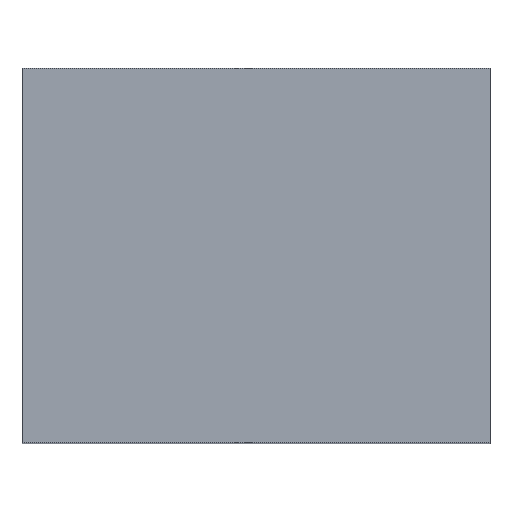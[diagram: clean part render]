
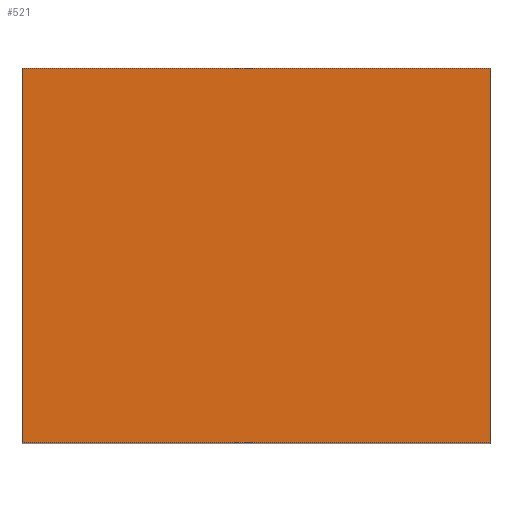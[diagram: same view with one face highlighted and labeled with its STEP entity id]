
A CAD part, top view. The second image highlights one B-rep face of the part: STEP entity #521.
In plain terms, the highlighted planar face has unit normal (0, 0, 1).
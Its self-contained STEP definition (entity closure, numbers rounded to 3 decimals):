
#7 = DIRECTION ( 'NONE',  ( 0., 0., -1. ) ) ;
#12 = CARTESIAN_POINT ( 'NONE',  ( 50., -20., 20. ) ) ;
#19 = AXIS2_PLACEMENT_3D ( 'NONE', #78, #7, #510 ) ;
#40 = LINE ( 'NONE', #592, #189 ) ;
#41 = EDGE_LOOP ( 'NONE', ( #373, #630, #357, #467 ) ) ;
#56 = EDGE_CURVE ( 'NONE', #415, #255, #40, .T. ) ;
#78 = CARTESIAN_POINT ( 'NONE',  ( 50., -20., 20. ) ) ;
#80 = VERTEX_POINT ( 'NONE', #418 ) ;
#96 = LINE ( 'NONE', #327, #655 ) ;
#165 = EDGE_CURVE ( 'NONE', #80, #415, #573, .T. ) ;
#171 = VERTEX_POINT ( 'NONE', #442 ) ;
#189 = VECTOR ( 'NONE', #427, 1000. ) ;
#230 = VECTOR ( 'NONE', #398, 1000. ) ;
#255 = VERTEX_POINT ( 'NONE', #511 ) ;
#287 = LINE ( 'NONE', #496, #561 ) ;
#300 = PLANE ( 'NONE',  #19 ) ;
#327 = CARTESIAN_POINT ( 'NONE',  ( 0., -20., 20. ) ) ;
#357 = ORIENTED_EDGE ( 'NONE', *, *, #165, .F. ) ;
#366 = EDGE_CURVE ( 'NONE', #171, #255, #96, .T. ) ;
#373 = ORIENTED_EDGE ( 'NONE', *, *, #366, .T. ) ;
#398 = DIRECTION ( 'NONE',  ( 0., -1., 0. ) ) ;
#410 = DIRECTION ( 'NONE',  ( 0., -1., 0. ) ) ;
#415 = VERTEX_POINT ( 'NONE', #492 ) ;
#418 = CARTESIAN_POINT ( 'NONE',  ( 50., 20., 20. ) ) ;
#427 = DIRECTION ( 'NONE',  ( -1., 0., 0. ) ) ;
#442 = CARTESIAN_POINT ( 'NONE',  ( 0., 20., 20. ) ) ;
#451 = FACE_OUTER_BOUND ( 'NONE', #41, .T. ) ;
#467 = ORIENTED_EDGE ( 'NONE', *, *, #504, .T. ) ;
#492 = CARTESIAN_POINT ( 'NONE',  ( 50., -20., 20. ) ) ;
#496 = CARTESIAN_POINT ( 'NONE',  ( 50., 20., 20. ) ) ;
#504 = EDGE_CURVE ( 'NONE', #80, #171, #287, .T. ) ;
#510 = DIRECTION ( 'NONE',  ( -1., 0., 0. ) ) ;
#511 = CARTESIAN_POINT ( 'NONE',  ( 0., -20., 20. ) ) ;
#521 = ADVANCED_FACE ( 'NONE', ( #451 ), #300, .F. ) ;
#561 = VECTOR ( 'NONE', #599, 1000. ) ;
#573 = LINE ( 'NONE', #12, #230 ) ;
#592 = CARTESIAN_POINT ( 'NONE',  ( 50., -20., 20. ) ) ;
#599 = DIRECTION ( 'NONE',  ( -1., 0., 0. ) ) ;
#630 = ORIENTED_EDGE ( 'NONE', *, *, #56, .F. ) ;
#655 = VECTOR ( 'NONE', #410, 1000. ) ;
